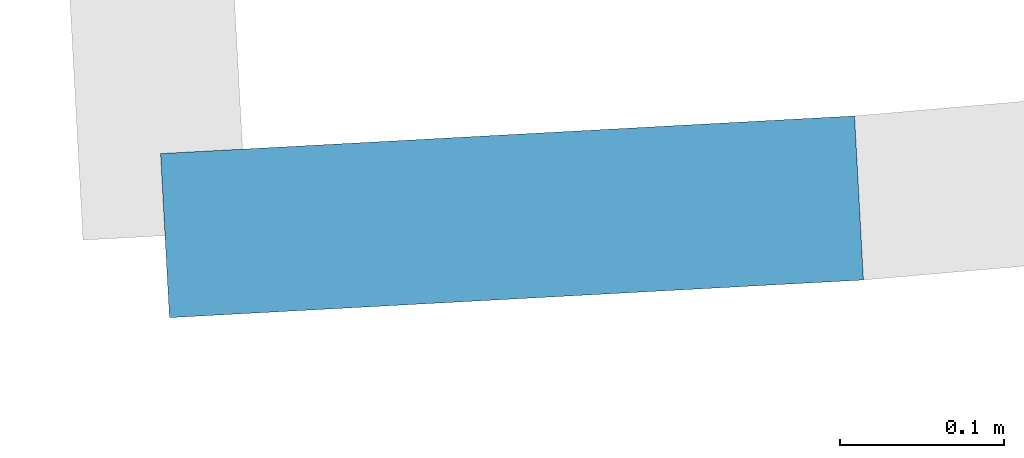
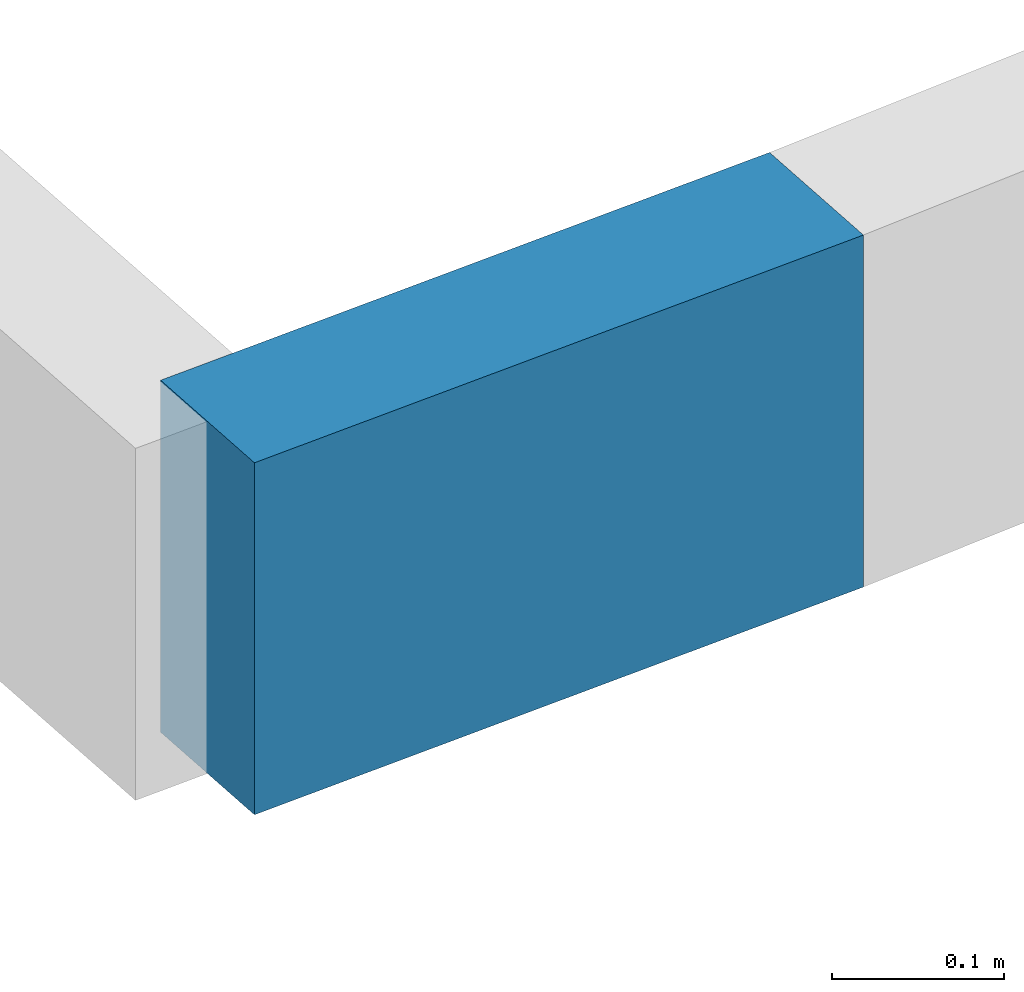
# One storey, part 7 of 112: 1 beam.
"""IFC2X3 building model written with IfcOpenShell, lengths in millimetres."""

from ifc_helpers import new_model, entity, si_unit, converted_unit, derived_unit, direction, frame, frame_2d, origin, place, context, subcontext, project, spatial, rectangle, extrude, material, type_object, element, save


model = new_model("IFC2X3")

# Units and contexts
model_context = context("Model", 3, precision=0.01, world=origin(), true_north=direction((6.123031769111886e-17, 1.0)))
body_context = subcontext(model_context, "Body", "Model", "MODEL_VIEW")
ifc_project = project(units=[si_unit("LENGTHUNIT", "METRE", prefix="MILLI"), si_unit("AREAUNIT", "SQUARE_METRE"), si_unit("VOLUMEUNIT", "CUBIC_METRE"), converted_unit("PLANEANGLEUNIT", "DEGREE", entity("IfcRatioMeasure", 0.017453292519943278), si_unit("PLANEANGLEUNIT", "RADIAN"), dimensions=[0, 0, 0, 0, 0, 0, 0]), si_unit("MASSUNIT", "GRAM", prefix="KILO"), derived_unit("MASSDENSITYUNIT", [(si_unit("MASSUNIT", "GRAM", prefix="KILO"), 1), (si_unit("LENGTHUNIT", "METRE"), -3)]), derived_unit("MOMENTOFINERTIAUNIT", [(si_unit("LENGTHUNIT", "METRE"), 4)]), si_unit("TIMEUNIT", "SECOND"), si_unit("FREQUENCYUNIT", "HERTZ"), si_unit("THERMODYNAMICTEMPERATUREUNIT", "DEGREE_CELSIUS"), derived_unit("THERMALTRANSMITTANCEUNIT", [(si_unit("MASSUNIT", "GRAM", prefix="KILO"), 1), (si_unit("THERMODYNAMICTEMPERATUREUNIT", "KELVIN"), -1), (si_unit("TIMEUNIT", "SECOND"), -3)]), derived_unit("THERMALCONDUCTANCEUNIT", [(si_unit("MASSUNIT", "GRAM", prefix="KILO"), 1), (si_unit("LENGTHUNIT", "METRE"), 1), (si_unit("THERMODYNAMICTEMPERATUREUNIT", "KELVIN"), -1), (si_unit("TIMEUNIT", "SECOND"), -3)]), derived_unit("VOLUMETRICFLOWRATEUNIT", [(si_unit("LENGTHUNIT", "METRE"), 3), (si_unit("TIMEUNIT", "SECOND"), -1)]), derived_unit("MASSFLOWRATEUNIT", [(si_unit("MASSUNIT", "GRAM", prefix="KILO"), 1), (si_unit("TIMEUNIT", "SECOND"), -1)]), derived_unit("ROTATIONALFREQUENCYUNIT", [(si_unit("TIMEUNIT", "SECOND"), -1)]), si_unit("ELECTRICCURRENTUNIT", "AMPERE"), si_unit("ELECTRICVOLTAGEUNIT", "VOLT"), si_unit("POWERUNIT", "WATT"), converted_unit("FORCEUNIT", "KIP", entity("IfcRatioMeasure", 2.088543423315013e-05), si_unit("FORCEUNIT", "NEWTON"), dimensions=[1, 1, -2, 0, 0, 0, 0]), si_unit("ILLUMINANCEUNIT", "LUX"), si_unit("LUMINOUSFLUXUNIT", "LUMEN"), si_unit("LUMINOUSINTENSITYUNIT", "CANDELA"), derived_unit("USERDEFINED", [(si_unit("MASSUNIT", "GRAM", prefix="KILO"), -1), (si_unit("LENGTHUNIT", "METRE"), -2), (si_unit("TIMEUNIT", "SECOND"), 3), (si_unit("LUMINOUSFLUXUNIT", "LUMEN"), 1)]), derived_unit("USERDEFINED", [(si_unit("MASSUNIT", "GRAM", prefix="KILO"), 1), (si_unit("LENGTHUNIT", "METRE"), 3), (si_unit("TIMEUNIT", "SECOND"), -3), (si_unit("ELECTRICCURRENTUNIT", "AMPERE"), -2)]), derived_unit("USERDEFINED", [(si_unit("LENGTHUNIT", "METRE"), 2), (si_unit("TIMEUNIT", "SECOND"), -2)]), derived_unit("SOUNDPOWERUNIT", [(si_unit("MASSUNIT", "GRAM", prefix="KILO"), 1), (si_unit("LENGTHUNIT", "METRE"), 2), (si_unit("TIMEUNIT", "SECOND"), -3)]), derived_unit("SOUNDPRESSUREUNIT", [(si_unit("MASSUNIT", "GRAM", prefix="KILO"), 1), (si_unit("LENGTHUNIT", "METRE"), -1), (si_unit("TIMEUNIT", "SECOND"), -2)]), derived_unit("LINEARVELOCITYUNIT", [(si_unit("LENGTHUNIT", "METRE"), 1), (si_unit("TIMEUNIT", "SECOND"), -1)]), si_unit("PRESSUREUNIT", "PASCAL"), derived_unit("USERDEFINED", [(si_unit("LENGTHUNIT", "METRE"), -2), (si_unit("MASSUNIT", "GRAM", prefix="KILO"), 1), (si_unit("TIMEUNIT", "SECOND"), -2)]), derived_unit("LINEARFORCEUNIT", [(si_unit("MASSUNIT", "GRAM", prefix="KILO"), 1), (si_unit("LENGTHUNIT", "METRE"), 1), (si_unit("TIMEUNIT", "SECOND"), -2), (si_unit("LENGTHUNIT", "METRE"), -1)]), derived_unit("PLANARFORCEUNIT", [(si_unit("MASSUNIT", "GRAM", prefix="KILO"), 1), (si_unit("LENGTHUNIT", "METRE"), 1), (si_unit("TIMEUNIT", "SECOND"), -2), (si_unit("LENGTHUNIT", "METRE"), -2)]), derived_unit("SPECIFICHEATCAPACITYUNIT", [(si_unit("LENGTHUNIT", "METRE"), 2), (si_unit("TIMEUNIT", "SECOND"), -2), (si_unit("THERMODYNAMICTEMPERATUREUNIT", "KELVIN"), -1)]), derived_unit("VAPORPERMEABILITYUNIT", [(si_unit("TIMEUNIT", "SECOND"), 1), (si_unit("LENGTHUNIT", "METRE"), -1)]), derived_unit("DYNAMICVISCOSITYUNIT", [(si_unit("MASSUNIT", "GRAM", prefix="KILO"), 1), (si_unit("LENGTHUNIT", "METRE"), -1), (si_unit("TIMEUNIT", "SECOND"), -1)]), derived_unit("THERMALEXPANSIONCOEFFICIENTUNIT", [(si_unit("THERMODYNAMICTEMPERATUREUNIT", "KELVIN"), -1)])], contexts=[model_context])

# Site, building, storey
site_placement = place(None, frame((0.0, 0.0, 0.0), z_axis=(0.0, 0.0, 1.0), x_axis=(0.8191520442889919, 0.5735764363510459, 0.0)))
site = spatial("IfcSite", under=ifc_project, at=site_placement, Name="Default", CompositionType="ELEMENT")
building_placement = place(site_placement, origin())
building = spatial("IfcBuilding", under=site, at=building_placement, CompositionType="ELEMENT")
storey_placement = place(building_placement, frame((0.0, 0.0, -3600.0)))
storey = spatial("IfcBuildingStorey", under=building, at=storey_placement, Name="0.UG -3.60", CompositionType="ELEMENT", Elevation=-3600.0000000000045)

# Beam
ifc_material = material(Name="Paveta_bordur")
beam_type = type_object("IfcBeamType", Name="Beam-176 237245:Beam-176 237245", PredefinedType="NOTDEFINED")
beam_placement = place(storey_placement, origin())
element("IfcBeam", 1, at=beam_placement, inside=storey, type_object=beam_type, material=ifc_material, Name="Beam-176", ObjectType="Beam-176 237245:Beam-176 237245", context=body_context, shape_type="SweptSolid", body=[
    extrude(rectangle(XDim=250.00000000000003, YDim=100.00000000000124, at=frame_2d((0.0, -2.2879476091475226e-12), x_axis=(1.0, 0.0))), frame((56423.57495638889, 23670.76872130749, 1985.0), z_axis=(0.8490404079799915, -0.5283279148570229, 0.0), x_axis=(0.0, 0.0, -1.0)), (0.0, 0.0, 1.0), 422.9706817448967),
])

save(model, "model.ifc")
